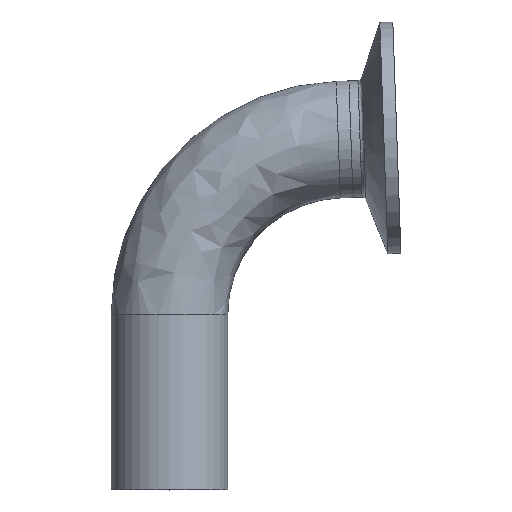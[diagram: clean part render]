
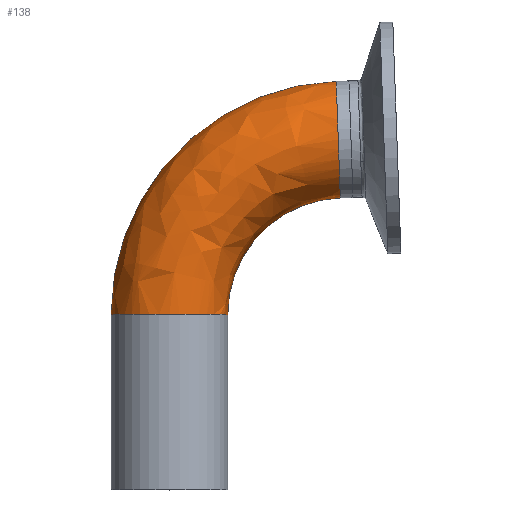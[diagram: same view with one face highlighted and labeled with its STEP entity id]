
A CAD part, top view. The second image highlights one B-rep face of the part: STEP entity #138.
In plain terms, the highlighted free-form (B-spline) face has degree [3, 3] with [4, 4] control points.
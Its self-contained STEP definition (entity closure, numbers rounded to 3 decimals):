
#72 = CARTESIAN_POINT ( 'NONE',  ( -12.7, 38.188, 0. ) ) ;
#138 = ADVANCED_FACE ( 'NONE', ( #243 ), #1518, .T. ) ;
#175 = CARTESIAN_POINT ( 'NONE',  ( -12.7, 67.128, 0. ) ) ;
#214 = VERTEX_POINT ( 'NONE', #812 ) ;
#217 = CARTESIAN_POINT ( 'NONE',  ( 7.404, 87.947, 0. ) ) ;
#231 = CARTESIAN_POINT ( 'NONE',  ( 36.327, 88.957, 0. ) ) ;
#243 = FACE_OUTER_BOUND ( 'NONE', #918, .T. ) ;
#278 = DIRECTION ( 'NONE',  ( -1., 0., 0. ) ) ;
#291 = CARTESIAN_POINT ( 'NONE',  ( -12.7, 38.188, 25.4 ) ) ;
#301 = CARTESIAN_POINT ( 'NONE',  ( -12.7, 67.128, 25.4 ) ) ;
#306 = CARTESIAN_POINT ( 'NONE',  ( 7.404, 87.947, 25.4 ) ) ;
#310 = CARTESIAN_POINT ( 'NONE',  ( 36.327, 88.957, 25.4 ) ) ;
#322 = CARTESIAN_POINT ( 'NONE',  ( 12.7, 38.188, 25.4 ) ) ;
#335 = CARTESIAN_POINT ( 'NONE',  ( 12.7, 52.658, 25.4 ) ) ;
#345 = CARTESIAN_POINT ( 'NONE',  ( 22.752, 63.067, 25.4 ) ) ;
#387 = DIRECTION ( 'NONE',  ( -0.999, -0.035, 0. ) ) ;
#410 = CARTESIAN_POINT ( 'NONE',  ( 37.214, 63.572, 25.4 ) ) ;
#414 = CARTESIAN_POINT ( 'NONE',  ( 12.7, 38.188, 0. ) ) ;
#422 = CARTESIAN_POINT ( 'NONE',  ( 12.7, 52.658, 0. ) ) ;
#426 = EDGE_CURVE ( 'NONE', #1007, #214, #1663, .T. ) ;
#434 = CARTESIAN_POINT ( 'NONE',  ( 36.77, 76.264, 0. ) ) ;
#437 = CARTESIAN_POINT ( 'NONE',  ( 22.752, 63.067, 0. ) ) ;
#441 = CARTESIAN_POINT ( 'NONE',  ( 37.214, 63.572, 0. ) ) ;
#442 = AXIS2_PLACEMENT_3D ( 'NONE', #1652, #504, #278 ) ;
#473 = ORIENTED_EDGE ( 'NONE', *, *, #426, .T. ) ;
#496 = ORIENTED_EDGE ( 'NONE', *, *, #1239, .F. ) ;
#504 = DIRECTION ( 'NONE',  ( 0., 0., -1. ) ) ;
#658 = AXIS2_PLACEMENT_3D ( 'NONE', #723, #1419, #1343 ) ;
#719 = CIRCLE ( 'NONE', #658, 12.7 ) ;
#723 = CARTESIAN_POINT ( 'NONE',  ( 0., 38.188, 0. ) ) ;
#733 = CARTESIAN_POINT ( 'NONE',  ( 12.7, 38.188, 0. ) ) ;
#763 = CARTESIAN_POINT ( 'NONE',  ( -12.7, 38.188, 0. ) ) ;
#812 = CARTESIAN_POINT ( 'NONE',  ( 36.327, 88.957, 0. ) ) ;
#908 = VERTEX_POINT ( 'NONE', #733 ) ;
#918 = EDGE_LOOP ( 'NONE', ( #1673, #1730, #473, #496 ) ) ;
#921 = CIRCLE ( 'NONE', #985, 25.4 ) ;
#985 = AXIS2_PLACEMENT_3D ( 'NONE', #1388, #1378, #1372 ) ;
#1007 = VERTEX_POINT ( 'NONE', #1177 ) ;
#1177 = CARTESIAN_POINT ( 'NONE',  ( 37.214, 63.572, 0. ) ) ;
#1187 = CIRCLE ( 'NONE', #442, 50.8 ) ;
#1199 = AXIS2_PLACEMENT_3D ( 'NONE', #434, #387, #1516 ) ;
#1239 = EDGE_CURVE ( 'NONE', #1376, #214, #1187, .T. ) ;
#1313 = EDGE_CURVE ( 'NONE', #908, #1007, #921, .T. ) ;
#1343 = DIRECTION ( 'NONE',  ( -1., 0., 0. ) ) ;
#1372 = DIRECTION ( 'NONE',  ( -1., 0., 0. ) ) ;
#1376 = VERTEX_POINT ( 'NONE', #763 ) ;
#1378 = DIRECTION ( 'NONE',  ( 0., 0., -1. ) ) ;
#1388 = CARTESIAN_POINT ( 'NONE',  ( 38.1, 38.188, 0. ) ) ;
#1419 = DIRECTION ( 'NONE',  ( 0., 1., 0. ) ) ;
#1516 = DIRECTION ( 'NONE',  ( -0.035, 0.999, 0. ) ) ;
#1518 =( BOUNDED_SURFACE ( )  B_SPLINE_SURFACE ( 3, 3, ( 
 ( #72, #175, #217, #231 ),
 ( #291, #301, #306, #310 ),
 ( #322, #335, #345, #410 ),
 ( #414, #422, #437, #441 ) ),
 .UNSPECIFIED., .F., .F., .F. ) 
 B_SPLINE_SURFACE_WITH_KNOTS ( ( 4, 4 ),
 ( 4, 4 ),
 ( 0., 1. ),
 ( 0., 1. ),
 .UNSPECIFIED. ) 
 GEOMETRIC_REPRESENTATION_ITEM ( )  RATIONAL_B_SPLINE_SURFACE ( (
 ( 1., 0.813, 0.813, 1.),
 ( 0.333, 0.271, 0.271, 0.333),
 ( 0.333, 0.271, 0.271, 0.333),
 ( 1., 0.813, 0.813, 1.) ) ) 
 REPRESENTATION_ITEM ( '' )  SURFACE ( )  );
#1552 = EDGE_CURVE ( 'NONE', #1376, #908, #719, .T. ) ;
#1652 = CARTESIAN_POINT ( 'NONE',  ( 38.1, 38.188, 0. ) ) ;
#1663 = CIRCLE ( 'NONE', #1199, 12.7 ) ;
#1673 = ORIENTED_EDGE ( 'NONE', *, *, #1552, .T. ) ;
#1730 = ORIENTED_EDGE ( 'NONE', *, *, #1313, .T. ) ;
